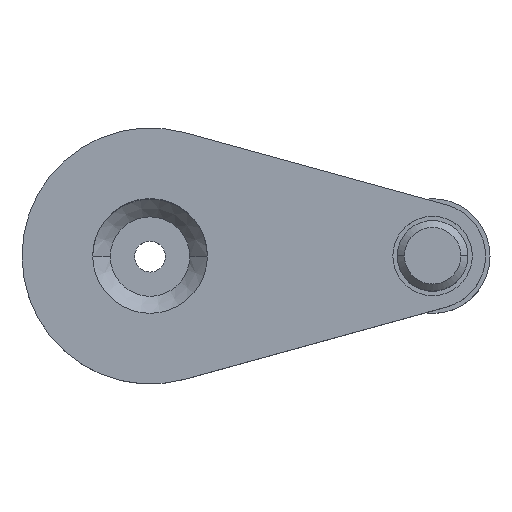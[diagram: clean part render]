
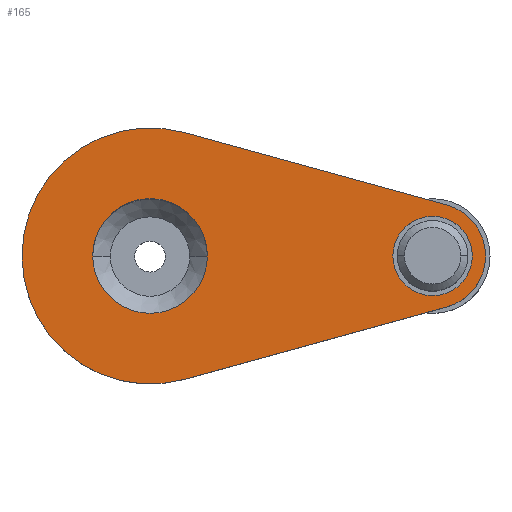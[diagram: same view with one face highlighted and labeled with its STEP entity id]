
A CAD part, top view. The second image highlights one B-rep face of the part: STEP entity #165.
In plain terms, the highlighted planar face has unit normal (0, 0, 1).
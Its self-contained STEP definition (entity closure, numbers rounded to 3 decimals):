
#116=FACE_BOUND('',#280,.T.);
#117=FACE_BOUND('',#281,.T.);
#118=FACE_BOUND('',#282,.T.);
#138=PLANE('',#979);
#165=ADVANCED_FACE('',(#116,#117,#118),#138,.T.);
#280=EDGE_LOOP('',(#499,#500,#501,#502,#503,#504));
#281=EDGE_LOOP('',(#505,#506));
#282=EDGE_LOOP('',(#507,#508));
#335=LINE('',#1363,#395);
#339=LINE('',#1379,#399);
#395=VECTOR('',#1079,1.);
#399=VECTOR('',#1095,1.);
#499=ORIENTED_EDGE('',*,*,#786,.F.);
#500=ORIENTED_EDGE('',*,*,#779,.F.);
#501=ORIENTED_EDGE('',*,*,#773,.F.);
#502=ORIENTED_EDGE('',*,*,#778,.F.);
#503=ORIENTED_EDGE('',*,*,#787,.F.);
#504=ORIENTED_EDGE('',*,*,#782,.F.);
#505=ORIENTED_EDGE('',*,*,#799,.F.);
#506=ORIENTED_EDGE('',*,*,#795,.F.);
#507=ORIENTED_EDGE('',*,*,#793,.F.);
#508=ORIENTED_EDGE('',*,*,#789,.F.);
#693=VERTEX_POINT('',#1351);
#694=VERTEX_POINT('',#1352);
#698=VERTEX_POINT('',#1360);
#699=VERTEX_POINT('',#1364);
#701=VERTEX_POINT('',#1370);
#702=VERTEX_POINT('',#1371);
#705=VERTEX_POINT('',#1383);
#706=VERTEX_POINT('',#1384);
#709=VERTEX_POINT('',#1395);
#710=VERTEX_POINT('',#1396);
#773=EDGE_CURVE('',#693,#694,#893,.T.);
#778=EDGE_CURVE('',#698,#693,#896,.T.);
#779=EDGE_CURVE('',#694,#699,#335,.T.);
#782=EDGE_CURVE('',#701,#702,#897,.T.);
#786=EDGE_CURVE('',#699,#701,#900,.T.);
#787=EDGE_CURVE('',#702,#698,#339,.T.);
#789=EDGE_CURVE('',#705,#706,#901,.T.);
#793=EDGE_CURVE('',#706,#705,#903,.T.);
#795=EDGE_CURVE('',#709,#710,#905,.T.);
#799=EDGE_CURVE('',#710,#709,#907,.T.);
#893=CIRCLE('',#954,6.);
#896=CIRCLE('',#957,6.);
#897=CIRCLE('',#960,14.5);
#900=CIRCLE('',#963,14.5);
#901=CIRCLE('',#966,4.5);
#903=CIRCLE('',#969,4.5);
#905=CIRCLE('',#972,6.5);
#907=CIRCLE('',#975,6.5);
#954=AXIS2_PLACEMENT_3D('',#1350,#1067,#1068);
#957=AXIS2_PLACEMENT_3D('',#1361,#1075,#1076);
#960=AXIS2_PLACEMENT_3D('',#1369,#1084,#1085);
#963=AXIS2_PLACEMENT_3D('',#1377,#1091,#1092);
#966=AXIS2_PLACEMENT_3D('',#1382,#1099,#1100);
#969=AXIS2_PLACEMENT_3D('',#1391,#1107,#1108);
#972=AXIS2_PLACEMENT_3D('',#1394,#1113,#1114);
#975=AXIS2_PLACEMENT_3D('',#1403,#1121,#1122);
#979=AXIS2_PLACEMENT_3D('',#1407,#1129,#1130);
#1067=DIRECTION('',(0.,0.,-1.));
#1068=DIRECTION('',(-1.,0.,0.));
#1075=DIRECTION('',(0.,0.,-1.));
#1076=DIRECTION('',(-1.,0.,0.));
#1079=DIRECTION('',(-0.964,-0.266,0.));
#1084=DIRECTION('',(0.,0.,-1.));
#1085=DIRECTION('',(1.,0.,0.));
#1091=DIRECTION('',(0.,0.,-1.));
#1092=DIRECTION('',(1.,0.,0.));
#1095=DIRECTION('',(0.964,-0.266,0.));
#1099=DIRECTION('',(0.,0.,1.));
#1100=DIRECTION('',(1.,0.,0.));
#1107=DIRECTION('',(0.,0.,1.));
#1108=DIRECTION('',(-1.,0.,0.));
#1113=DIRECTION('',(0.,0.,1.));
#1114=DIRECTION('',(1.,0.,0.));
#1121=DIRECTION('',(0.,0.,1.));
#1122=DIRECTION('',(-1.,0.,0.));
#1129=DIRECTION('',(0.,0.,1.));
#1130=DIRECTION('',(-1.,0.,0.));
#1350=CARTESIAN_POINT('',(32.,0.,0.));
#1351=CARTESIAN_POINT('',(38.,0.,0.));
#1352=CARTESIAN_POINT('',(33.594,-5.784,0.));
#1360=CARTESIAN_POINT('',(33.594,5.784,0.));
#1361=CARTESIAN_POINT('',(32.,0.,0.));
#1363=CARTESIAN_POINT('',(3.852,-13.979,0.));
#1364=CARTESIAN_POINT('',(3.852,-13.979,0.));
#1369=CARTESIAN_POINT('',(0.,0.,0.));
#1370=CARTESIAN_POINT('',(-14.5,0.001,0.));
#1371=CARTESIAN_POINT('',(3.852,13.979,0.));
#1377=CARTESIAN_POINT('',(0.,0.,0.));
#1379=CARTESIAN_POINT('',(3.852,13.979,0.));
#1382=CARTESIAN_POINT('',(32.,0.,0.));
#1383=CARTESIAN_POINT('',(32.,4.5,0.));
#1384=CARTESIAN_POINT('',(32.,-4.5,0.));
#1391=CARTESIAN_POINT('',(32.,0.,0.));
#1394=CARTESIAN_POINT('',(0.,0.,0.));
#1395=CARTESIAN_POINT('',(0.,6.5,0.));
#1396=CARTESIAN_POINT('',(0.,-6.5,0.));
#1403=CARTESIAN_POINT('',(0.,0.,0.));
#1407=CARTESIAN_POINT('',(-14.5,0.,0.));
